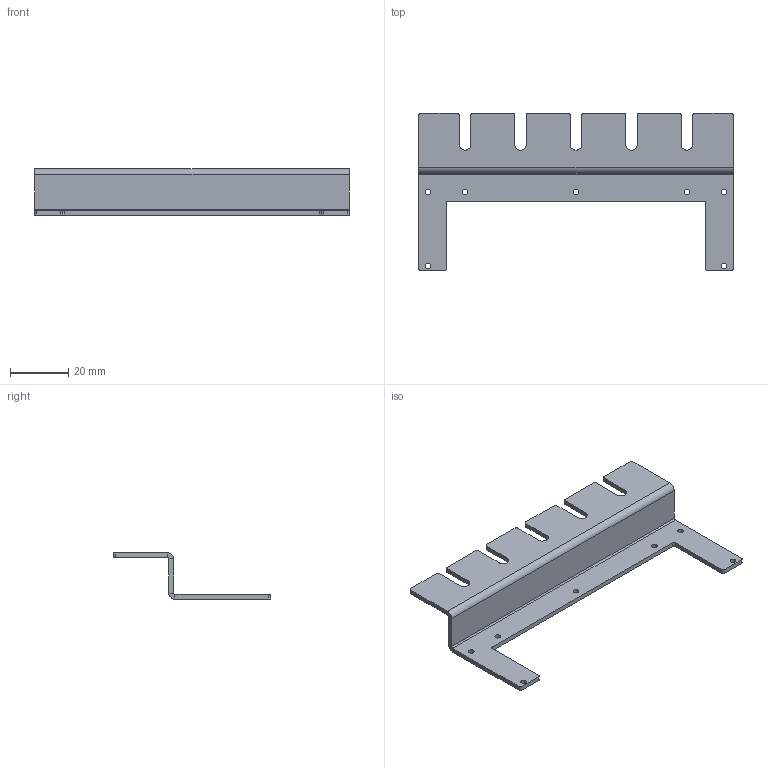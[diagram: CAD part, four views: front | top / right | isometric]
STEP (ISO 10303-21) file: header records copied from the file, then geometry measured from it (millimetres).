
FILE_DESCRIPTION(/* description */ ('','CAx-IF Rec.Pracs.---Representation and Presentation of Product Manufacturing Information (PMI)---4.0---2014-10-13'),/* implementation_level */ '2;1');
FILE_NAME(/* name */ 'end_stiffener.step',/* time_stamp */ '2025-01-18T16:33:41+05:00',/* author */ (''),/* organization */ (''),/* preprocessor_version */ 'ST-DEVELOPER v20',/* originating_system */ 'Autodesk Translation Framework v13.20.0.188',/* authorisation */ '');
FILE_SCHEMA (('CONFIG_CONTROL_DESIGN','AP203_CONFIGURATION_CONTROLLED_3D_DESIGN_OF_MECHANICAL_PARTS_AND_ASSEMBLIES_MIM_LF { 1 0 10303 203 3 1 4 }','TECHNICAL_DATA_PACKAGING','AP242_MANAGED_MODEL_BASED_3D_ENGINEERING_MIM_LF { 1 0 10303 442 3 1 4 }','AP242_MANAGED_MODEL_BASED_3D_ENGINEERING_MIM_LF { 1 0 10303 442 1 1 4 }'));
Length unit declared in the file: inch
Products named in the file (1): end_stiffener
Bounding box: 107.95 x 53.98 x 15.88 mm (x, y, z)
Volume: 7727 mm3; surface area: 10613.1 mm2
Topology: 1 solids, 1 shells, 71 faces, 191 edges, 122 vertices
Faces by surface type: plane 37, cylinder 34
Full cylindrical faces by diameter (mm): 1.905 x7
Entity records: 2288 total; most frequent: DIRECTION 403, CARTESIAN_POINT 385, ORIENTED_EDGE 382, EDGE_CURVE 191, AXIS2_PLACEMENT_3D 140, LINE 123, VECTOR 123, VERTEX_POINT 122
